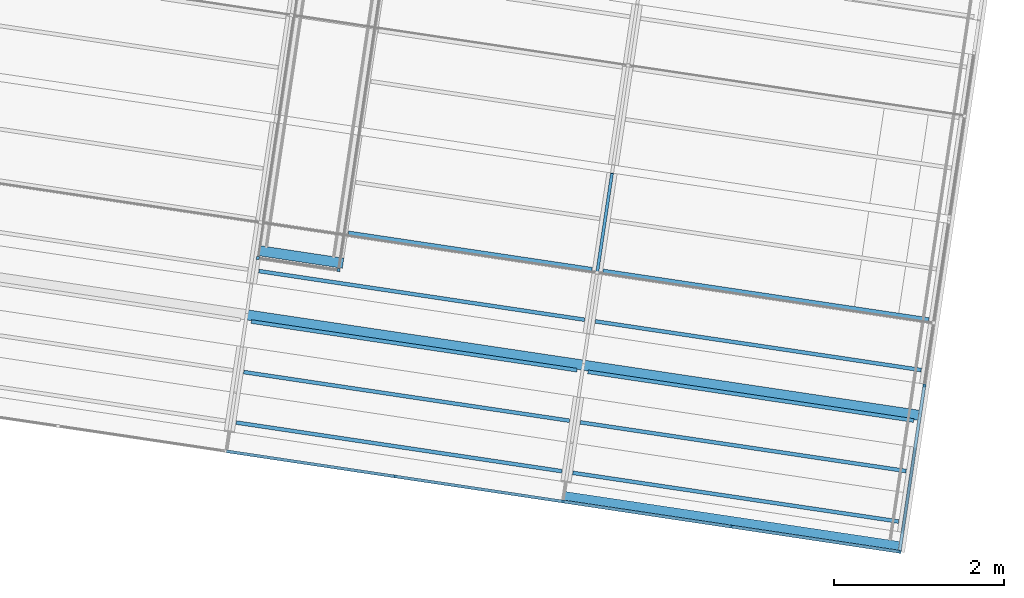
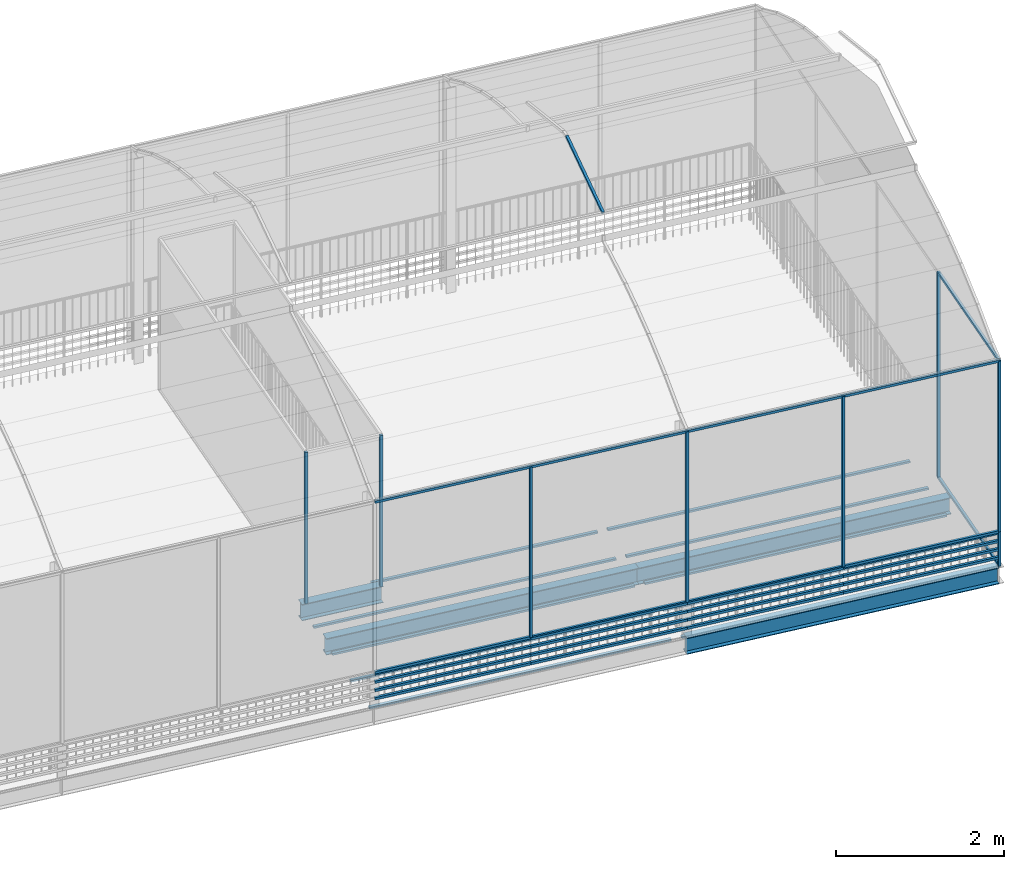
# One storey, part 12 of 34: 41 members, 14 beams, 1 element without a shape of its own.
"""IFC4 building model written with IfcOpenShell, lengths in metres."""

import ifcopenshell
import ifcopenshell.guid

model = None  # the IFC model being written
_history = None  # IfcOwnerHistory: only IFC2X3 demands one
_inside = {}  # id of a spatial element -> (the spatial element, [elements in it])
_under = {}  # id of a project, library or spatial element -> (it, [spatial elements below it])
_declared = {}  # id of a project -> (the project, [libraries it declares])
_typed = {}  # id of a type object -> (the type object, [elements of that type])
_made_of = {}  # id of a material, layer set ... -> (it, [elements and type objects made of it])


def new_model(schema):
    """Start an empty IFC model of exactly this schema.

    Asked for "IFC4X3", IfcOpenShell would pick the latest addendum, in which some entities
    have other attributes; the version numbers below select the first issue.
    IFC2X3 requires an IfcOwnerHistory on every rooted entity: one is made here for all.
    """
    global model, _history
    if schema == "IFC4X3":
        model = ifcopenshell.file(schema_version=(4, 3, 0, 0))
    else:
        model = ifcopenshell.file(schema=schema)
    _inside.clear()
    _under.clear()
    _declared.clear()
    _typed.clear()
    _made_of.clear()
    _history = None
    if model.schema == "IFC2X3":
        org = make("IfcOrganization", Name="unknown")
        user = make(
            "IfcPersonAndOrganization",
            ThePerson=make("IfcPerson", FamilyName="unknown"),
            TheOrganization=org,
        )
        app = make(
            "IfcApplication",
            ApplicationDeveloper=org,
            Version="unknown",
            ApplicationFullName="unknown",
            ApplicationIdentifier="unknown",
        )
        _history = make(
            "IfcOwnerHistory",
            OwningUser=user,
            OwningApplication=app,
            ChangeAction="ADDED",
            CreationDate=0,
        )
    return model


def make(cls, **values):
    """One entity of the class cls with the attributes given. An attribute that is None is left unset."""
    return model.create_entity(
        cls, **{name: value for name, value in values.items() if value is not None}
    )


def rooted(cls, **values):
    """An entity with a GlobalId (a new one), such as an element, a storey or a relation."""
    return make(cls, GlobalId=ifcopenshell.guid.new(), OwnerHistory=_history, **values)


def si_unit(unit_type, name, prefix=None):
    """IfcSIUnit, for example si_unit("LENGTHUNIT", "METRE", prefix="MILLI")."""
    return make("IfcSIUnit", UnitType=unit_type, Prefix=prefix, Name=name)


def assignment(units):
    """IfcUnitAssignment: the units of a project."""
    return None if units is None else make("IfcUnitAssignment", Units=units)


def point(xyz):
    """IfcCartesianPoint."""
    return None if xyz is None else make("IfcCartesianPoint", Coordinates=xyz)


def direction(xyz):
    """IfcDirection."""
    return None if xyz is None else make("IfcDirection", DirectionRatios=xyz)


def frame(location, z_axis=None, x_axis=None):
    """IfcAxis2Placement3D, a coordinate frame: its origin and axes. An axis left out is left unset."""
    return make(
        "IfcAxis2Placement3D",
        Location=point(location),
        Axis=direction(z_axis),
        RefDirection=direction(x_axis),
    )


def origin_with_axes():
    """The frame at (0, 0, 0) with the z axis (0, 0, 1) and the x axis (1, 0, 0) written out."""
    return frame((0.0, 0.0, 0.0), z_axis=(0.0, 0.0, 1.0), x_axis=(1.0, 0.0, 0.0))


def place(relative_to, where):
    """IfcLocalPlacement: puts the frame where relative to a parent placement (None: the world)."""
    return make(
        "IfcLocalPlacement", PlacementRelTo=relative_to, RelativePlacement=where
    )


def context(
    kind, dimensions, precision=None, world=None, true_north=None, identifier=None
):
    """IfcGeometricRepresentationContext, for example the 3D "Model" context."""
    return make(
        "IfcGeometricRepresentationContext",
        ContextIdentifier=identifier,
        ContextType=kind,
        CoordinateSpaceDimension=dimensions,
        Precision=precision,
        WorldCoordinateSystem=world,
        TrueNorth=true_north,
    )


def subcontext(parent, identifier, kind, view, scale=None):
    """IfcGeometricRepresentationSubContext, for example "Body" below "Model"."""
    return make(
        "IfcGeometricRepresentationSubContext",
        ContextIdentifier=identifier,
        ContextType=kind,
        ParentContext=parent,
        TargetScale=scale,
        TargetView=view,
    )


def project(units=None, contexts=None):
    """IfcProject with its units and contexts."""
    return rooted(
        "IfcProject",
        Name="project",
        RepresentationContexts=contexts,
        UnitsInContext=assignment(units),
    )


def spatial(cls, under=None, at=None, **own):
    """A site, building, storey or space (cls), placed at a placement, below another one or the project."""
    s = rooted(cls, ObjectPlacement=at, **own)
    if under is not None:
        _under.setdefault(under.id(), (under, []))[1].append(s)
    return s


def polyline(points):
    """IfcPolyline through the points."""
    return make("IfcPolyline", Points=[point(p) for p in points])


def profile(cls, at=None, kind="AREA", **sizes):
    """A parametric profile (cls). Its sizes go by their IFC names, for example OverallWidth=200.0."""
    return make(cls, ProfileType=kind, Position=at, **sizes)


def rectangle(**sizes):
    """IfcRectangleProfileDef."""
    return profile("IfcRectangleProfileDef", **sizes)


def i_section(**sizes):
    """IfcIShapeProfileDef."""
    return profile("IfcIShapeProfileDef", **sizes)


def outline(outer, holes=None, kind="AREA"):
    """IfcArbitraryClosedProfileDef: a profile drawn as a closed curve; with holes, ...WithVoids."""
    if holes is None:
        return make("IfcArbitraryClosedProfileDef", ProfileType=kind, OuterCurve=outer)
    return make(
        "IfcArbitraryProfileDefWithVoids",
        ProfileType=kind,
        OuterCurve=outer,
        InnerCurves=holes,
    )


def extrude(swept, where, along, depth):
    """IfcExtrudedAreaSolid: the profile swept, set in the frame where, extruded along a direction by depth."""
    return make(
        "IfcExtrudedAreaSolid",
        SweptArea=swept,
        Position=where,
        ExtrudedDirection=direction(along),
        Depth=depth,
    )


def shape(context_of_items, identifier, shape_type, items):
    """IfcShapeRepresentation: the items that make up one representation, for example the "Body"."""
    return make(
        "IfcShapeRepresentation",
        ContextOfItems=context_of_items,
        RepresentationIdentifier=identifier,
        RepresentationType=shape_type,
        Items=items,
    )


def material(Name=None, Category=None):
    """IfcMaterial."""
    return make("IfcMaterial", Name=Name, Category=Category)


def material_profile(
    of_material, cross_section, Name=None, Category=None, Priority=None
):
    """IfcMaterialProfile: a cross section and its material."""
    return make(
        "IfcMaterialProfile",
        Name=Name,
        Material=of_material,
        Profile=cross_section,
        Priority=Priority,
        Category=Category,
    )


def profile_set(profiles, Name=None, composite=None):
    """IfcMaterialProfileSet."""
    return make(
        "IfcMaterialProfileSet",
        Name=Name,
        MaterialProfiles=profiles,
        CompositeProfile=composite,
    )


def profile_usage(for_profile_set, cardinal=None, extent=None):
    """IfcMaterialProfileSetUsage: how a profile set lies along its element."""
    return make(
        "IfcMaterialProfileSetUsage",
        ForProfileSet=for_profile_set,
        CardinalPoint=cardinal,
        ReferenceExtent=extent,
    )


def made_of(thing, what):
    """Note that an element or type object is made of a material, layer set ...; save() writes the relation."""
    if what is not None:
        _made_of.setdefault(what.id(), (what, []))[1].append(thing)
    return thing


def type_object(cls, material=None, **own):
    """A type object (cls), such as IfcWallType, which elements share."""
    return made_of(rooted(cls, **own), material)


def element(
    cls,
    number,
    at=None,
    inside=None,
    cuts=None,
    type_object=None,
    material=None,
    context=None,
    identifier="Body",
    shape_type=None,
    held_by="IfcProductDefinitionShape",
    body=None,
    shapes=None,
    **own,
):
    """One element of the class cls, such as IfcWall. Its Tag is "e" and its number.

    at: its placement. inside: the storey or other place that contains it. cuts: it is an
    opening in that element (IfcRelVoidsElement). A single representation is given by context,
    identifier, shape_type and body (its items); several are given by shapes. held_by: the class
    of the entity that holds the representations. save() writes the other relations.
    """
    e = rooted(cls, Tag="e%d" % number, ObjectPlacement=at, **own)
    if body is not None:
        shapes = [shape(context, identifier, shape_type, body)]
    if shapes is not None:
        e.Representation = make(held_by, Representations=shapes)
    if inside is not None:
        _inside.setdefault(inside.id(), (inside, []))[1].append(e)
    if cuts is not None:
        rooted(
            "IfcRelVoidsElement", RelatingBuildingElement=cuts, RelatedOpeningElement=e
        )
    if type_object is not None:
        _typed.setdefault(type_object.id(), (type_object, []))[1].append(e)
    return made_of(e, material)


def aggregate(whole, parts):
    """IfcRelAggregates: a whole, such as a stair, and the parts it consists of."""
    return rooted("IfcRelAggregates", RelatingObject=whole, RelatedObjects=parts)


def save(model, path):
    """Write the relations noted so far, then the file.

    IfcRelAggregates (storeys below a building ...), IfcRelContainedInSpatialStructure (elements
    in a storey), IfcRelDefinesByType, IfcRelAssociatesMaterial and IfcRelDeclares: one each for
    every whole, place, type object, material and project.
    """
    for whole, parts in _under.values():
        aggregate(whole, parts)
    for where, things in _inside.values():
        rooted(
            "IfcRelContainedInSpatialStructure",
            RelatedElements=things,
            RelatingStructure=where,
        )
    for kind, things in _typed.values():
        rooted("IfcRelDefinesByType", RelatedObjects=things, RelatingType=kind)
    for what, things in _made_of.values():
        rooted("IfcRelAssociatesMaterial", RelatedObjects=things, RelatingMaterial=what)
    for by, libraries in _declared.values():
        rooted("IfcRelDeclares", RelatingContext=by, RelatedDefinitions=libraries)
    model.write(path)


model = new_model("IFC4")

# Units and contexts
model_context = context("Model", 3, precision=1e-05, world=origin_with_axes(), true_north=direction((0.0, 1.0)))
body_context = subcontext(model_context, "Body", "Model", "MODEL_VIEW")
ifc_project = project(units=[si_unit("VOLUMEUNIT", "CUBIC_METRE"), si_unit("LENGTHUNIT", "METRE"), si_unit("AREAUNIT", "SQUARE_METRE")], contexts=[model_context])

# Site, building, storey
site_placement = place(None, origin_with_axes())
site = spatial("IfcSite", under=ifc_project, at=site_placement, Name="Lares · Rua das Mercês · artigo 4771")
building_placement = place(site_placement, frame((12.0, 10.2, 13.9), z_axis=(0.0, 0.0, 1.0), x_axis=(0.989015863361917, -0.147809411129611, 0.0)))
building = spatial("IfcBuilding", under=site, at=building_placement, Name="Casa Sobreposta")
storey_placement = place(building_placement, frame((0.0, 0.0, 3.24), z_axis=(0.0, 0.0, 1.0), x_axis=(1.0, 0.0, 0.0)))
storey = spatial("IfcBuildingStorey", under=building, at=storey_placement, Name="01 · Jardim de inverno", Elevation=17.14)

# Beams
ifc_material_1 = material(Name="Aço pintado / Stahl lackiert", Category="steel")
ifc_material_profile_1 = material_profile(ifc_material_1, i_section(OverallWidth=0.12, OverallDepth=0.24, WebThickness=0.0062, FlangeThickness=0.0098))
ifc_profile_set_1 = profile_set([ifc_material_profile_1], Name="IPE240")
ifc_profile_usage_1 = profile_usage(ifc_profile_set_1)
beam_type = type_object("IfcBeamType", Name="IPE240 / steel", PredefinedType="NOTDEFINED", material=ifc_profile_set_1)
beam_1_placement = place(storey_placement, frame((24.0, 0.12, -0.152), z_axis=(1.0, 0.0, 0.0), x_axis=(0.0, -1.0, 0.0)))
element("IfcBeam", 1, at=beam_1_placement, inside=storey, type_object=beam_type, material=ifc_profile_usage_1, Name="Viga longitudinal 24 / 0.12", context=body_context, shape_type="SweptSolid", body=[
    extrude(i_section(OverallWidth=0.12, OverallDepth=0.24, WebThickness=0.0062, FlangeThickness=0.0098), origin_with_axes(), (0.0, 0.0, 1.0), 4.0),
])
ifc_profile_usage_2 = profile_usage(ifc_profile_set_1)
beam_2_placement = place(storey_placement, frame((28.0, 0.12, -0.152), z_axis=(1.0, 0.0, 0.0), x_axis=(0.0, -1.0, 0.0)))
element("IfcBeam", 2, at=beam_2_placement, inside=storey, type_object=beam_type, material=ifc_profile_usage_2, Name="Viga longitudinal 28 / 0.12", context=body_context, shape_type="SweptSolid", body=[
    extrude(i_section(OverallWidth=0.12, OverallDepth=0.24, WebThickness=0.0062, FlangeThickness=0.0098), origin_with_axes(), (0.0, 0.0, 1.0), 4.0),
])
ifc_profile_usage_3 = profile_usage(ifc_profile_set_1)
beam_3_placement = place(storey_placement, frame((28.0, -1.44, -0.152), z_axis=(1.0, 0.0, 0.0), x_axis=(0.0, -1.0, 0.0)))
element("IfcBeam", 3, at=beam_3_placement, inside=storey, type_object=beam_type, material=ifc_profile_usage_3, Name="Viga longitudinal 28 / -1.44", context=body_context, shape_type="SweptSolid", body=[
    extrude(i_section(OverallWidth=0.12, OverallDepth=0.24, WebThickness=0.0062, FlangeThickness=0.0098), origin_with_axes(), (0.0, 0.0, 1.0), 4.0),
])
ifc_profile_usage_4 = profile_usage(ifc_profile_set_1)
beam_4_placement = place(storey_placement, frame((23.99, 0.8875, -0.152), z_axis=(1.0, 0.0, 0.0), x_axis=(0.0, -1.0, 0.0)))
element("IfcBeam", 4, at=beam_4_placement, inside=storey, type_object=beam_type, material=ifc_profile_usage_4, Name="Cabeceira do vão 2", context=body_context, shape_type="SweptSolid", body=[
    extrude(i_section(OverallWidth=0.12, OverallDepth=0.24, WebThickness=0.0062, FlangeThickness=0.0098), origin_with_axes(), (0.0, 0.0, 1.0), 1.04),
])

# Members
ifc_material_profile_2 = material_profile(ifc_material_1, rectangle(XDim=0.035, YDim=0.035))
ifc_profile_set_2 = profile_set([ifc_material_profile_2], Name="R0.035")
ifc_profile_usage_5 = profile_usage(ifc_profile_set_2)
member_type = type_object("IfcMemberType", Name="R0.035 / steel", PredefinedType="NOTDEFINED", material=ifc_profile_set_2)
member_1_placement = place(storey_placement, frame((26.0, -1.5, 0.5), z_axis=(0.0, 0.0, 1.0), x_axis=(1.0, 0.0, 0.0)))
element("IfcMember", 5, at=member_1_placement, inside=storey, type_object=member_type, material=ifc_profile_usage_5, context=body_context, shape_type="SweptSolid", body=[
    extrude(rectangle(XDim=0.035, YDim=0.035), origin_with_axes(), (0.0, 0.0, 1.0), 2.48),
])
ifc_profile_usage_6 = profile_usage(ifc_profile_set_2)
member_2_placement = place(storey_placement, frame((24.0, -1.5, 0.5), z_axis=(1.0, 0.0, 0.0), x_axis=(0.0, -1.0, 0.0)))
element("IfcMember", 6, at=member_2_placement, inside=storey, type_object=member_type, material=ifc_profile_usage_6, Name="Estufa sul 13 · travessa", context=body_context, shape_type="SweptSolid", body=[
    extrude(rectangle(XDim=0.035, YDim=0.035), origin_with_axes(), (0.0, 0.0, 1.0), 2.0),
])
ifc_profile_usage_7 = profile_usage(ifc_profile_set_2)
member_3_placement = place(storey_placement, frame((24.0, -1.5, 2.98), z_axis=(1.0, 0.0, 0.0), x_axis=(0.0, -1.0, 0.0)))
element("IfcMember", 7, at=member_3_placement, inside=storey, type_object=member_type, material=ifc_profile_usage_7, Name="Estufa sul 13 · travessa", context=body_context, shape_type="SweptSolid", body=[
    extrude(rectangle(XDim=0.035, YDim=0.035), origin_with_axes(), (0.0, 0.0, 1.0), 2.0),
])
ifc_profile_usage_8 = profile_usage(ifc_profile_set_2)
member_4_placement = place(storey_placement, frame((24.0, -1.5, 0.12), z_axis=(1.0, 0.0, 0.0), x_axis=(0.0, -1.0, 0.0)))
element("IfcMember", 8, at=member_4_placement, inside=storey, type_object=member_type, material=ifc_profile_usage_8, Name="Entrada de ar sul 13", context=body_context, shape_type="SweptSolid", body=[
    extrude(rectangle(XDim=0.035, YDim=0.035), origin_with_axes(), (0.0, 0.0, 1.0), 2.0),
])
ifc_profile_usage_9 = profile_usage(ifc_profile_set_2)
member_5_placement = place(storey_placement, frame((24.0, -1.5, 0.24), z_axis=(1.0, 0.0, 0.0), x_axis=(0.0, -1.0, 0.0)))
element("IfcMember", 9, at=member_5_placement, inside=storey, type_object=member_type, material=ifc_profile_usage_9, Name="Entrada de ar sul 13", context=body_context, shape_type="SweptSolid", body=[
    extrude(rectangle(XDim=0.035, YDim=0.035), origin_with_axes(), (0.0, 0.0, 1.0), 2.0),
])
ifc_profile_usage_10 = profile_usage(ifc_profile_set_2)
member_6_placement = place(storey_placement, frame((24.0, -1.5, 0.36), z_axis=(1.0, 0.0, 0.0), x_axis=(0.0, -1.0, 0.0)))
element("IfcMember", 10, at=member_6_placement, inside=storey, type_object=member_type, material=ifc_profile_usage_10, Name="Entrada de ar sul 13", context=body_context, shape_type="SweptSolid", body=[
    extrude(rectangle(XDim=0.035, YDim=0.035), origin_with_axes(), (0.0, 0.0, 1.0), 2.0),
])
ifc_profile_usage_11 = profile_usage(ifc_profile_set_2)
member_7_placement = place(storey_placement, frame((24.0, -1.5, 0.48), z_axis=(1.0, 0.0, 0.0), x_axis=(0.0, -1.0, 0.0)))
element("IfcMember", 11, at=member_7_placement, inside=storey, type_object=member_type, material=ifc_profile_usage_11, Name="Entrada de ar sul 13", context=body_context, shape_type="SweptSolid", body=[
    extrude(rectangle(XDim=0.035, YDim=0.035), origin_with_axes(), (0.0, 0.0, 1.0), 2.0),
])
ifc_profile_usage_12 = profile_usage(ifc_profile_set_2)
member_8_placement = place(storey_placement, frame((26.0, -1.5, 0.5), z_axis=(0.0, 0.0, 1.0), x_axis=(1.0, 0.0, 0.0)))
element("IfcMember", 12, at=member_8_placement, inside=storey, type_object=member_type, material=ifc_profile_usage_12, context=body_context, shape_type="SweptSolid", body=[
    extrude(rectangle(XDim=0.035, YDim=0.035), origin_with_axes(), (0.0, 0.0, 1.0), 2.48),
])
ifc_profile_usage_13 = profile_usage(ifc_profile_set_2)
member_9_placement = place(storey_placement, frame((28.0, -1.5, 0.5), z_axis=(0.0, 0.0, 1.0), x_axis=(1.0, 0.0, 0.0)))
element("IfcMember", 13, at=member_9_placement, inside=storey, type_object=member_type, material=ifc_profile_usage_13, context=body_context, shape_type="SweptSolid", body=[
    extrude(rectangle(XDim=0.035, YDim=0.035), origin_with_axes(), (0.0, 0.0, 1.0), 2.48),
])
ifc_profile_usage_14 = profile_usage(ifc_profile_set_2)
member_10_placement = place(storey_placement, frame((26.0, -1.5, 0.5), z_axis=(1.0, 0.0, 0.0), x_axis=(0.0, -1.0, 0.0)))
element("IfcMember", 14, at=member_10_placement, inside=storey, type_object=member_type, material=ifc_profile_usage_14, Name="Estufa sul 14 · travessa", context=body_context, shape_type="SweptSolid", body=[
    extrude(rectangle(XDim=0.035, YDim=0.035), origin_with_axes(), (0.0, 0.0, 1.0), 2.0),
])
ifc_profile_usage_15 = profile_usage(ifc_profile_set_2)
member_11_placement = place(storey_placement, frame((26.0, -1.5, 2.98), z_axis=(1.0, 0.0, 0.0), x_axis=(0.0, -1.0, 0.0)))
element("IfcMember", 15, at=member_11_placement, inside=storey, type_object=member_type, material=ifc_profile_usage_15, Name="Estufa sul 14 · travessa", context=body_context, shape_type="SweptSolid", body=[
    extrude(rectangle(XDim=0.035, YDim=0.035), origin_with_axes(), (0.0, 0.0, 1.0), 2.0),
])
ifc_profile_usage_16 = profile_usage(ifc_profile_set_2)
member_12_placement = place(storey_placement, frame((26.0, -1.5, 0.12), z_axis=(1.0, 0.0, 0.0), x_axis=(0.0, -1.0, 0.0)))
element("IfcMember", 16, at=member_12_placement, inside=storey, type_object=member_type, material=ifc_profile_usage_16, Name="Entrada de ar sul 14", context=body_context, shape_type="SweptSolid", body=[
    extrude(rectangle(XDim=0.035, YDim=0.035), origin_with_axes(), (0.0, 0.0, 1.0), 2.0),
])
ifc_profile_usage_17 = profile_usage(ifc_profile_set_2)
member_13_placement = place(storey_placement, frame((26.0, -1.5, 0.24), z_axis=(1.0, 0.0, 0.0), x_axis=(0.0, -1.0, 0.0)))
element("IfcMember", 17, at=member_13_placement, inside=storey, type_object=member_type, material=ifc_profile_usage_17, Name="Entrada de ar sul 14", context=body_context, shape_type="SweptSolid", body=[
    extrude(rectangle(XDim=0.035, YDim=0.035), origin_with_axes(), (0.0, 0.0, 1.0), 2.0),
])
ifc_profile_usage_18 = profile_usage(ifc_profile_set_2)
member_14_placement = place(storey_placement, frame((26.0, -1.5, 0.36), z_axis=(1.0, 0.0, 0.0), x_axis=(0.0, -1.0, 0.0)))
element("IfcMember", 18, at=member_14_placement, inside=storey, type_object=member_type, material=ifc_profile_usage_18, Name="Entrada de ar sul 14", context=body_context, shape_type="SweptSolid", body=[
    extrude(rectangle(XDim=0.035, YDim=0.035), origin_with_axes(), (0.0, 0.0, 1.0), 2.0),
])
ifc_profile_usage_19 = profile_usage(ifc_profile_set_2)
member_15_placement = place(storey_placement, frame((26.0, -1.5, 0.48), z_axis=(1.0, 0.0, 0.0), x_axis=(0.0, -1.0, 0.0)))
element("IfcMember", 19, at=member_15_placement, inside=storey, type_object=member_type, material=ifc_profile_usage_19, Name="Entrada de ar sul 14", context=body_context, shape_type="SweptSolid", body=[
    extrude(rectangle(XDim=0.035, YDim=0.035), origin_with_axes(), (0.0, 0.0, 1.0), 2.0),
])
ifc_profile_usage_20 = profile_usage(ifc_profile_set_2)
member_16_placement = place(storey_placement, frame((28.0, -1.5, 0.5), z_axis=(0.0, 0.0, 1.0), x_axis=(1.0, 0.0, 0.0)))
element("IfcMember", 20, at=member_16_placement, inside=storey, type_object=member_type, material=ifc_profile_usage_20, context=body_context, shape_type="SweptSolid", body=[
    extrude(rectangle(XDim=0.035, YDim=0.035), origin_with_axes(), (0.0, 0.0, 1.0), 2.48),
])
ifc_profile_usage_21 = profile_usage(ifc_profile_set_2)
member_17_placement = place(storey_placement, frame((30.0, -1.5, 0.5), z_axis=(0.0, 0.0, 1.0), x_axis=(1.0, 0.0, 0.0)))
element("IfcMember", 21, at=member_17_placement, inside=storey, type_object=member_type, material=ifc_profile_usage_21, context=body_context, shape_type="SweptSolid", body=[
    extrude(rectangle(XDim=0.035, YDim=0.035), origin_with_axes(), (0.0, 0.0, 1.0), 2.48),
])
ifc_profile_usage_22 = profile_usage(ifc_profile_set_2)
member_18_placement = place(storey_placement, frame((28.0, -1.5, 0.5), z_axis=(1.0, 0.0, 0.0), x_axis=(0.0, -1.0, 0.0)))
element("IfcMember", 22, at=member_18_placement, inside=storey, type_object=member_type, material=ifc_profile_usage_22, Name="Estufa sul 15 · travessa", context=body_context, shape_type="SweptSolid", body=[
    extrude(rectangle(XDim=0.035, YDim=0.035), origin_with_axes(), (0.0, 0.0, 1.0), 2.0),
])
ifc_profile_usage_23 = profile_usage(ifc_profile_set_2)
member_19_placement = place(storey_placement, frame((28.0, -1.5, 2.98), z_axis=(1.0, 0.0, 0.0), x_axis=(0.0, -1.0, 0.0)))
element("IfcMember", 23, at=member_19_placement, inside=storey, type_object=member_type, material=ifc_profile_usage_23, Name="Estufa sul 15 · travessa", context=body_context, shape_type="SweptSolid", body=[
    extrude(rectangle(XDim=0.035, YDim=0.035), origin_with_axes(), (0.0, 0.0, 1.0), 2.0),
])
ifc_profile_usage_24 = profile_usage(ifc_profile_set_2)
member_20_placement = place(storey_placement, frame((28.0, -1.5, 0.12), z_axis=(1.0, 0.0, 0.0), x_axis=(0.0, -1.0, 0.0)))
element("IfcMember", 24, at=member_20_placement, inside=storey, type_object=member_type, material=ifc_profile_usage_24, Name="Entrada de ar sul 15", context=body_context, shape_type="SweptSolid", body=[
    extrude(rectangle(XDim=0.035, YDim=0.035), origin_with_axes(), (0.0, 0.0, 1.0), 2.0),
])
ifc_profile_usage_25 = profile_usage(ifc_profile_set_2)
member_21_placement = place(storey_placement, frame((28.0, -1.5, 0.24), z_axis=(1.0, 0.0, 0.0), x_axis=(0.0, -1.0, 0.0)))
element("IfcMember", 25, at=member_21_placement, inside=storey, type_object=member_type, material=ifc_profile_usage_25, Name="Entrada de ar sul 15", context=body_context, shape_type="SweptSolid", body=[
    extrude(rectangle(XDim=0.035, YDim=0.035), origin_with_axes(), (0.0, 0.0, 1.0), 2.0),
])
ifc_profile_usage_26 = profile_usage(ifc_profile_set_2)
member_22_placement = place(storey_placement, frame((28.0, -1.5, 0.36), z_axis=(1.0, 0.0, 0.0), x_axis=(0.0, -1.0, 0.0)))
element("IfcMember", 26, at=member_22_placement, inside=storey, type_object=member_type, material=ifc_profile_usage_26, Name="Entrada de ar sul 15", context=body_context, shape_type="SweptSolid", body=[
    extrude(rectangle(XDim=0.035, YDim=0.035), origin_with_axes(), (0.0, 0.0, 1.0), 2.0),
])
ifc_profile_usage_27 = profile_usage(ifc_profile_set_2)
member_23_placement = place(storey_placement, frame((28.0, -1.5, 0.48), z_axis=(1.0, 0.0, 0.0), x_axis=(0.0, -1.0, 0.0)))
element("IfcMember", 27, at=member_23_placement, inside=storey, type_object=member_type, material=ifc_profile_usage_27, Name="Entrada de ar sul 15", context=body_context, shape_type="SweptSolid", body=[
    extrude(rectangle(XDim=0.035, YDim=0.035), origin_with_axes(), (0.0, 0.0, 1.0), 2.0),
])
ifc_profile_usage_28 = profile_usage(ifc_profile_set_2)
member_24_placement = place(storey_placement, frame((30.0, -1.5, 0.5), z_axis=(0.0, 0.0, 1.0), x_axis=(1.0, 0.0, 0.0)))
element("IfcMember", 28, at=member_24_placement, inside=storey, type_object=member_type, material=ifc_profile_usage_28, context=body_context, shape_type="SweptSolid", body=[
    extrude(rectangle(XDim=0.035, YDim=0.035), origin_with_axes(), (0.0, 0.0, 1.0), 2.48),
])
ifc_profile_usage_29 = profile_usage(ifc_profile_set_2)
member_25_placement = place(storey_placement, frame((32.0, -1.5, 0.5), z_axis=(0.0, 0.0, 1.0), x_axis=(1.0, 0.0, 0.0)))
element("IfcMember", 29, at=member_25_placement, inside=storey, type_object=member_type, material=ifc_profile_usage_29, Name="Estufa sul 16 · montante", context=body_context, shape_type="SweptSolid", body=[
    extrude(rectangle(XDim=0.035, YDim=0.035), origin_with_axes(), (0.0, 0.0, 1.0), 2.48),
])
ifc_profile_usage_30 = profile_usage(ifc_profile_set_2)
member_26_placement = place(storey_placement, frame((30.0, -1.5, 0.5), z_axis=(1.0, 0.0, 0.0), x_axis=(0.0, -1.0, 0.0)))
element("IfcMember", 30, at=member_26_placement, inside=storey, type_object=member_type, material=ifc_profile_usage_30, Name="Estufa sul 16 · travessa", context=body_context, shape_type="SweptSolid", body=[
    extrude(rectangle(XDim=0.035, YDim=0.035), origin_with_axes(), (0.0, 0.0, 1.0), 2.0),
])
ifc_profile_usage_31 = profile_usage(ifc_profile_set_2)
member_27_placement = place(storey_placement, frame((30.0, -1.5, 2.98), z_axis=(1.0, 0.0, 0.0), x_axis=(0.0, -1.0, 0.0)))
element("IfcMember", 31, at=member_27_placement, inside=storey, type_object=member_type, material=ifc_profile_usage_31, Name="Estufa sul 16 · travessa", context=body_context, shape_type="SweptSolid", body=[
    extrude(rectangle(XDim=0.035, YDim=0.035), origin_with_axes(), (0.0, 0.0, 1.0), 2.0),
])
ifc_profile_usage_32 = profile_usage(ifc_profile_set_2)
member_28_placement = place(storey_placement, frame((30.0, -1.5, 0.12), z_axis=(1.0, 0.0, 0.0), x_axis=(0.0, -1.0, 0.0)))
element("IfcMember", 32, at=member_28_placement, inside=storey, type_object=member_type, material=ifc_profile_usage_32, Name="Entrada de ar sul 16", context=body_context, shape_type="SweptSolid", body=[
    extrude(rectangle(XDim=0.035, YDim=0.035), origin_with_axes(), (0.0, 0.0, 1.0), 2.0),
])
ifc_profile_usage_33 = profile_usage(ifc_profile_set_2)
member_29_placement = place(storey_placement, frame((30.0, -1.5, 0.24), z_axis=(1.0, 0.0, 0.0), x_axis=(0.0, -1.0, 0.0)))
element("IfcMember", 33, at=member_29_placement, inside=storey, type_object=member_type, material=ifc_profile_usage_33, Name="Entrada de ar sul 16", context=body_context, shape_type="SweptSolid", body=[
    extrude(rectangle(XDim=0.035, YDim=0.035), origin_with_axes(), (0.0, 0.0, 1.0), 2.0),
])
ifc_profile_usage_34 = profile_usage(ifc_profile_set_2)
member_30_placement = place(storey_placement, frame((30.0, -1.5, 0.36), z_axis=(1.0, 0.0, 0.0), x_axis=(0.0, -1.0, 0.0)))
element("IfcMember", 34, at=member_30_placement, inside=storey, type_object=member_type, material=ifc_profile_usage_34, Name="Entrada de ar sul 16", context=body_context, shape_type="SweptSolid", body=[
    extrude(rectangle(XDim=0.035, YDim=0.035), origin_with_axes(), (0.0, 0.0, 1.0), 2.0),
])
ifc_profile_usage_35 = profile_usage(ifc_profile_set_2)
member_31_placement = place(storey_placement, frame((30.0, -1.5, 0.48), z_axis=(1.0, 0.0, 0.0), x_axis=(0.0, -1.0, 0.0)))
element("IfcMember", 35, at=member_31_placement, inside=storey, type_object=member_type, material=ifc_profile_usage_35, Name="Entrada de ar sul 16", context=body_context, shape_type="SweptSolid", body=[
    extrude(rectangle(XDim=0.035, YDim=0.035), origin_with_axes(), (0.0, 0.0, 1.0), 2.0),
])
ifc_profile_usage_36 = profile_usage(ifc_profile_set_2)
member_32_placement = place(storey_placement, frame((32.0, -1.5, 0.0), z_axis=(0.0, 0.0, 1.0), x_axis=(1.0, 0.0, 0.0)))
element("IfcMember", 36, at=member_32_placement, inside=storey, type_object=member_type, material=ifc_profile_usage_36, Name="Estufa nascente 1 · montante", context=body_context, shape_type="SweptSolid", body=[
    extrude(rectangle(XDim=0.035, YDim=0.035), origin_with_axes(), (0.0, 0.0, 1.0), 2.98),
])
ifc_profile_usage_37 = profile_usage(ifc_profile_set_2)
member_33_placement = place(storey_placement, frame((32.0, 0.475, 0.0), z_axis=(0.0, 0.0, 1.0), x_axis=(1.0, 0.0, 0.0)))
element("IfcMember", 37, at=member_33_placement, inside=storey, type_object=member_type, material=ifc_profile_usage_37, context=body_context, shape_type="SweptSolid", body=[
    extrude(rectangle(XDim=0.035, YDim=0.035), origin_with_axes(), (0.0, 0.0, 1.0), 2.98),
])
ifc_profile_usage_38 = profile_usage(ifc_profile_set_2)
member_34_placement = place(storey_placement, frame((32.0, -1.5, 0.0), z_axis=(0.0, 1.0, 0.0), x_axis=(1.0, 0.0, 0.0)))
element("IfcMember", 38, at=member_34_placement, inside=storey, type_object=member_type, material=ifc_profile_usage_38, Name="Estufa nascente 1 · travessa", context=body_context, shape_type="SweptSolid", body=[
    extrude(rectangle(XDim=0.035, YDim=0.035), origin_with_axes(), (0.0, 0.0, 1.0), 1.975),
])
ifc_profile_usage_39 = profile_usage(ifc_profile_set_2)
member_35_placement = place(storey_placement, frame((32.0, -1.5, 2.98), z_axis=(0.0, 1.0, 0.0), x_axis=(1.0, 0.0, 0.0)))
element("IfcMember", 39, at=member_35_placement, inside=storey, type_object=member_type, material=ifc_profile_usage_39, Name="Estufa nascente 1 · travessa", context=body_context, shape_type="SweptSolid", body=[
    extrude(rectangle(XDim=0.035, YDim=0.035), origin_with_axes(), (0.0, 0.0, 1.0), 1.975),
])
ifc_profile_usage_40 = profile_usage(ifc_profile_set_2)
member_36_placement = place(storey_placement, frame((32.0, 0.475, 0.0), z_axis=(0.0, 0.0, 1.0), x_axis=(1.0, 0.0, 0.0)))
element("IfcMember", 40, at=member_36_placement, inside=storey, type_object=member_type, material=ifc_profile_usage_40, context=body_context, shape_type="SweptSolid", body=[
    extrude(rectangle(XDim=0.035, YDim=0.035), origin_with_axes(), (0.0, 0.0, 1.0), 2.98),
])

# Roof, member
ifc_material_2 = material(Name="Vidro / Normalglas", Category="glass")
roof_placement = place(storey_placement, frame((0.0, 0.0, -3.24), z_axis=(0.0, 0.0, 1.0), x_axis=(1.0, 0.0, 0.0)))
roof = element("IfcRoof", 41, at=roof_placement, inside=storey, material=ifc_material_2, Name="Cobertura translúcida da estufa", PredefinedType="BARREL_ROOF")
ifc_profile_usage_41 = profile_usage(ifc_profile_set_2)
member_37_placement = place(roof_placement, frame((28.0, 1.22042020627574, 7.62067689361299), z_axis=(0.0, 0.960073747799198, 0.279747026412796), x_axis=(1.0, 0.0, 0.0)))
member_37 = element("IfcMember", 42, at=member_37_placement, type_object=member_type, material=ifc_profile_usage_41, Name="Arco estufa 28/7", context=body_context, shape_type="SweptSolid", body=[
    extrude(rectangle(XDim=0.035, YDim=0.035), origin_with_axes(), (0.0, 0.0, 1.0), 1.23148937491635),
])
aggregate(roof, [member_37])

# Members
ifc_profile_usage_42 = profile_usage(ifc_profile_set_2)
member_38_placement = place(storey_placement, frame((24.03, 0.8, 0.0), z_axis=(0.0, 0.0, 1.0), x_axis=(1.0, 0.0, 0.0)))
element("IfcMember", 43, at=member_38_placement, inside=storey, type_object=member_type, material=ifc_profile_usage_42, context=body_context, shape_type="SweptSolid", body=[
    extrude(rectangle(XDim=0.035, YDim=0.035), origin_with_axes(), (0.0, 0.0, 1.0), 2.2),
])
ifc_profile_usage_43 = profile_usage(ifc_profile_set_2)
member_39_placement = place(storey_placement, frame((24.99, 0.8, 0.0), z_axis=(0.0, 0.0, 1.0), x_axis=(1.0, 0.0, 0.0)))
element("IfcMember", 44, at=member_39_placement, inside=storey, type_object=member_type, material=ifc_profile_usage_43, context=body_context, shape_type="SweptSolid", body=[
    extrude(rectangle(XDim=0.035, YDim=0.035), origin_with_axes(), (0.0, 0.0, 1.0), 2.2),
])
ifc_profile_usage_44 = profile_usage(ifc_profile_set_2)
member_40_placement = place(storey_placement, frame((24.03, 0.8, 0.0), z_axis=(0.0, 0.0, 1.0), x_axis=(1.0, 0.0, 0.0)))
element("IfcMember", 45, at=member_40_placement, inside=storey, type_object=member_type, material=ifc_profile_usage_44, context=body_context, shape_type="SweptSolid", body=[
    extrude(rectangle(XDim=0.035, YDim=0.035), origin_with_axes(), (0.0, 0.0, 1.0), 2.2),
])
ifc_profile_usage_45 = profile_usage(ifc_profile_set_2)
member_41_placement = place(storey_placement, frame((24.99, 0.8, 0.0), z_axis=(0.0, 0.0, 1.0), x_axis=(1.0, 0.0, 0.0)))
element("IfcMember", 46, at=member_41_placement, inside=storey, type_object=member_type, material=ifc_profile_usage_45, context=body_context, shape_type="SweptSolid", body=[
    extrude(rectangle(XDim=0.035, YDim=0.035), origin_with_axes(), (0.0, 0.0, 1.0), 2.2),
])

# Beams
ifc_material_3 = material(Name="Madeira / Bauholz", Category="wood")
ifc_material_profile_3 = material_profile(ifc_material_3, outline(polyline([(0.022225, -0.12), (0.022225, -0.092), (-0.022225, -0.092), (-0.022225, -0.12), (0.022225, -0.12)])))
ifc_material_4 = material(Name="OSB", Category="wood")
ifc_material_profile_4 = material_profile(ifc_material_4, outline(polyline([(0.0047625, -0.092), (0.0047625, 0.092), (-0.0047625, 0.092), (-0.0047625, -0.092), (0.0047625, -0.092)])))
ifc_material_profile_5 = material_profile(ifc_material_3, outline(polyline([(0.022225, 0.092), (0.022225, 0.12), (-0.022225, 0.12), (-0.022225, 0.092), (0.022225, 0.092)])))
ifc_profile_set_3 = profile_set([ifc_material_profile_3, ifc_material_profile_4, ifc_material_profile_5], Name="TJI240 · madeira / OSB")
ifc_profile_usage_46 = profile_usage(ifc_profile_set_3)
beam_5_placement = place(storey_placement, frame((24.065, -1.15, -0.152), z_axis=(1.0, 0.0, 0.0), x_axis=(0.0, 1.0, 0.0)))
element("IfcBeam", 47, at=beam_5_placement, inside=storey, material=ifc_profile_usage_46, Name="TJI240 · 24.065 / -1.15", context=body_context, shape_type="SweptSolid", body=[
    extrude(outline(polyline([(0.022225, -0.12), (0.022225, -0.092), (-0.022225, -0.092), (-0.022225, -0.12), (0.022225, -0.12)])), origin_with_axes(), (0.0, 0.0, 1.0), 3.87),
    extrude(outline(polyline([(0.022225, -0.12), (0.022225, -0.092), (-0.022225, -0.092), (-0.022225, -0.12), (0.022225, -0.12)])), origin_with_axes(), (0.0, 0.0, 1.0), 3.87),
    extrude(outline(polyline([(0.022225, -0.12), (0.022225, -0.092), (-0.022225, -0.092), (-0.022225, -0.12), (0.022225, -0.12)])), origin_with_axes(), (0.0, 0.0, 1.0), 3.87),
])
ifc_material_profile_6 = material_profile(ifc_material_3, outline(polyline([(0.022225, -0.12), (0.022225, -0.092), (-0.022225, -0.092), (-0.022225, -0.12), (0.022225, -0.12)])))
ifc_material_profile_7 = material_profile(ifc_material_4, outline(polyline([(0.0047625, -0.092), (0.0047625, 0.092), (-0.0047625, 0.092), (-0.0047625, -0.092), (0.0047625, -0.092)])))
ifc_material_profile_8 = material_profile(ifc_material_3, outline(polyline([(0.022225, 0.092), (0.022225, 0.12), (-0.022225, 0.12), (-0.022225, 0.092), (0.022225, 0.092)])))
ifc_profile_set_4 = profile_set([ifc_material_profile_6, ifc_material_profile_7, ifc_material_profile_8], Name="TJI240 · madeira / OSB")
ifc_profile_usage_47 = profile_usage(ifc_profile_set_4)
beam_6_placement = place(storey_placement, frame((28.065, -1.15, -0.152), z_axis=(1.0, 0.0, 0.0), x_axis=(0.0, 1.0, 0.0)))
element("IfcBeam", 48, at=beam_6_placement, inside=storey, material=ifc_profile_usage_47, Name="TJI240 · 28.065 / -1.15", context=body_context, shape_type="SweptSolid", body=[
    extrude(outline(polyline([(0.022225, -0.12), (0.022225, -0.092), (-0.022225, -0.092), (-0.022225, -0.12), (0.022225, -0.12)])), origin_with_axes(), (0.0, 0.0, 1.0), 3.87),
    extrude(outline(polyline([(0.022225, -0.12), (0.022225, -0.092), (-0.022225, -0.092), (-0.022225, -0.12), (0.022225, -0.12)])), origin_with_axes(), (0.0, 0.0, 1.0), 3.87),
    extrude(outline(polyline([(0.022225, -0.12), (0.022225, -0.092), (-0.022225, -0.092), (-0.022225, -0.12), (0.022225, -0.12)])), origin_with_axes(), (0.0, 0.0, 1.0), 3.87),
])
ifc_material_profile_9 = material_profile(ifc_material_3, outline(polyline([(0.022225, -0.12), (0.022225, -0.092), (-0.022225, -0.092), (-0.022225, -0.12), (0.022225, -0.12)])))
ifc_material_profile_10 = material_profile(ifc_material_4, outline(polyline([(0.0047625, -0.092), (0.0047625, 0.092), (-0.0047625, 0.092), (-0.0047625, -0.092), (0.0047625, -0.092)])))
ifc_material_profile_11 = material_profile(ifc_material_3, outline(polyline([(0.022225, 0.092), (0.022225, 0.12), (-0.022225, 0.12), (-0.022225, 0.092), (0.022225, 0.092)])))
ifc_profile_set_5 = profile_set([ifc_material_profile_9, ifc_material_profile_10, ifc_material_profile_11], Name="TJI240 · madeira / OSB")
ifc_profile_usage_48 = profile_usage(ifc_profile_set_5)
beam_7_placement = place(storey_placement, frame((24.065, -0.55, -0.152), z_axis=(1.0, 0.0, 0.0), x_axis=(0.0, 1.0, 0.0)))
element("IfcBeam", 49, at=beam_7_placement, inside=storey, material=ifc_profile_usage_48, Name="TJI240 · 24.065 / -0.55", context=body_context, shape_type="SweptSolid", body=[
    extrude(outline(polyline([(0.022225, -0.12), (0.022225, -0.092), (-0.022225, -0.092), (-0.022225, -0.12), (0.022225, -0.12)])), origin_with_axes(), (0.0, 0.0, 1.0), 3.87),
    extrude(outline(polyline([(0.022225, -0.12), (0.022225, -0.092), (-0.022225, -0.092), (-0.022225, -0.12), (0.022225, -0.12)])), origin_with_axes(), (0.0, 0.0, 1.0), 3.87),
    extrude(outline(polyline([(0.022225, -0.12), (0.022225, -0.092), (-0.022225, -0.092), (-0.022225, -0.12), (0.022225, -0.12)])), origin_with_axes(), (0.0, 0.0, 1.0), 3.87),
])
ifc_material_profile_12 = material_profile(ifc_material_3, outline(polyline([(0.022225, -0.12), (0.022225, -0.092), (-0.022225, -0.092), (-0.022225, -0.12), (0.022225, -0.12)])))
ifc_material_profile_13 = material_profile(ifc_material_4, outline(polyline([(0.0047625, -0.092), (0.0047625, 0.092), (-0.0047625, 0.092), (-0.0047625, -0.092), (0.0047625, -0.092)])))
ifc_material_profile_14 = material_profile(ifc_material_3, outline(polyline([(0.022225, 0.092), (0.022225, 0.12), (-0.022225, 0.12), (-0.022225, 0.092), (0.022225, 0.092)])))
ifc_profile_set_6 = profile_set([ifc_material_profile_12, ifc_material_profile_13, ifc_material_profile_14], Name="TJI240 · madeira / OSB")
ifc_profile_usage_49 = profile_usage(ifc_profile_set_6)
beam_8_placement = place(storey_placement, frame((28.065, -0.55, -0.152), z_axis=(1.0, 0.0, 0.0), x_axis=(0.0, 1.0, 0.0)))
element("IfcBeam", 50, at=beam_8_placement, inside=storey, material=ifc_profile_usage_49, Name="TJI240 · 28.065 / -0.55", context=body_context, shape_type="SweptSolid", body=[
    extrude(outline(polyline([(0.022225, -0.12), (0.022225, -0.092), (-0.022225, -0.092), (-0.022225, -0.12), (0.022225, -0.12)])), origin_with_axes(), (0.0, 0.0, 1.0), 3.87),
    extrude(outline(polyline([(0.022225, -0.12), (0.022225, -0.092), (-0.022225, -0.092), (-0.022225, -0.12), (0.022225, -0.12)])), origin_with_axes(), (0.0, 0.0, 1.0), 3.87),
    extrude(outline(polyline([(0.022225, -0.12), (0.022225, -0.092), (-0.022225, -0.092), (-0.022225, -0.12), (0.022225, -0.12)])), origin_with_axes(), (0.0, 0.0, 1.0), 3.87),
])
ifc_material_profile_15 = material_profile(ifc_material_3, outline(polyline([(0.022225, -0.12), (0.022225, -0.092), (-0.022225, -0.092), (-0.022225, -0.12), (0.022225, -0.12)])))
ifc_material_profile_16 = material_profile(ifc_material_4, outline(polyline([(0.0047625, -0.092), (0.0047625, 0.092), (-0.0047625, 0.092), (-0.0047625, -0.092), (0.0047625, -0.092)])))
ifc_material_profile_17 = material_profile(ifc_material_3, outline(polyline([(0.022225, 0.092), (0.022225, 0.12), (-0.022225, 0.12), (-0.022225, 0.092), (0.022225, 0.092)])))
ifc_profile_set_7 = profile_set([ifc_material_profile_15, ifc_material_profile_16, ifc_material_profile_17], Name="TJI240 · madeira / OSB")
ifc_profile_usage_50 = profile_usage(ifc_profile_set_7)
beam_9_placement = place(storey_placement, frame((24.065, 0.05, -0.152), z_axis=(1.0, 0.0, 0.0), x_axis=(0.0, 1.0, 0.0)))
element("IfcBeam", 51, at=beam_9_placement, inside=storey, material=ifc_profile_usage_50, Name="TJI240 · 24.065 / 0.05", context=body_context, shape_type="SweptSolid", body=[
    extrude(outline(polyline([(0.022225, -0.12), (0.022225, -0.092), (-0.022225, -0.092), (-0.022225, -0.12), (0.022225, -0.12)])), origin_with_axes(), (0.0, 0.0, 1.0), 3.87),
    extrude(outline(polyline([(0.022225, -0.12), (0.022225, -0.092), (-0.022225, -0.092), (-0.022225, -0.12), (0.022225, -0.12)])), origin_with_axes(), (0.0, 0.0, 1.0), 3.87),
    extrude(outline(polyline([(0.022225, -0.12), (0.022225, -0.092), (-0.022225, -0.092), (-0.022225, -0.12), (0.022225, -0.12)])), origin_with_axes(), (0.0, 0.0, 1.0), 3.87),
])
ifc_material_profile_18 = material_profile(ifc_material_3, outline(polyline([(0.022225, -0.12), (0.022225, -0.092), (-0.022225, -0.092), (-0.022225, -0.12), (0.022225, -0.12)])))
ifc_material_profile_19 = material_profile(ifc_material_4, outline(polyline([(0.0047625, -0.092), (0.0047625, 0.092), (-0.0047625, 0.092), (-0.0047625, -0.092), (0.0047625, -0.092)])))
ifc_material_profile_20 = material_profile(ifc_material_3, outline(polyline([(0.022225, 0.092), (0.022225, 0.12), (-0.022225, 0.12), (-0.022225, 0.092), (0.022225, 0.092)])))
ifc_profile_set_8 = profile_set([ifc_material_profile_18, ifc_material_profile_19, ifc_material_profile_20], Name="TJI240 · madeira / OSB")
ifc_profile_usage_51 = profile_usage(ifc_profile_set_8)
beam_10_placement = place(storey_placement, frame((28.065, 0.05, -0.152), z_axis=(1.0, 0.0, 0.0), x_axis=(0.0, 1.0, 0.0)))
element("IfcBeam", 52, at=beam_10_placement, inside=storey, material=ifc_profile_usage_51, Name="TJI240 · 28.065 / 0.05", context=body_context, shape_type="SweptSolid", body=[
    extrude(outline(polyline([(0.022225, -0.12), (0.022225, -0.092), (-0.022225, -0.092), (-0.022225, -0.12), (0.022225, -0.12)])), origin_with_axes(), (0.0, 0.0, 1.0), 3.87),
    extrude(outline(polyline([(0.022225, -0.12), (0.022225, -0.092), (-0.022225, -0.092), (-0.022225, -0.12), (0.022225, -0.12)])), origin_with_axes(), (0.0, 0.0, 1.0), 3.87),
    extrude(outline(polyline([(0.022225, -0.12), (0.022225, -0.092), (-0.022225, -0.092), (-0.022225, -0.12), (0.022225, -0.12)])), origin_with_axes(), (0.0, 0.0, 1.0), 3.87),
])
ifc_material_profile_21 = material_profile(ifc_material_3, outline(polyline([(0.022225, -0.12), (0.022225, -0.092), (-0.022225, -0.092), (-0.022225, -0.12), (0.022225, -0.12)])))
ifc_material_profile_22 = material_profile(ifc_material_4, outline(polyline([(0.0047625, -0.092), (0.0047625, 0.092), (-0.0047625, 0.092), (-0.0047625, -0.092), (0.0047625, -0.092)])))
ifc_material_profile_23 = material_profile(ifc_material_3, outline(polyline([(0.022225, 0.092), (0.022225, 0.12), (-0.022225, 0.12), (-0.022225, 0.092), (0.022225, 0.092)])))
ifc_profile_set_9 = profile_set([ifc_material_profile_21, ifc_material_profile_22, ifc_material_profile_23], Name="TJI240 · madeira / OSB")
ifc_profile_usage_52 = profile_usage(ifc_profile_set_9)
beam_11_placement = place(storey_placement, frame((24.065, 0.65, -0.152), z_axis=(1.0, 0.0, 0.0), x_axis=(0.0, 1.0, 0.0)))
element("IfcBeam", 53, at=beam_11_placement, inside=storey, material=ifc_profile_usage_52, Name="TJI240 · 24.065 / 0.65", context=body_context, shape_type="SweptSolid", body=[
    extrude(outline(polyline([(0.022225, -0.12), (0.022225, -0.092), (-0.022225, -0.092), (-0.022225, -0.12), (0.022225, -0.12)])), origin_with_axes(), (0.0, 0.0, 1.0), 3.87),
    extrude(outline(polyline([(0.022225, -0.12), (0.022225, -0.092), (-0.022225, -0.092), (-0.022225, -0.12), (0.022225, -0.12)])), origin_with_axes(), (0.0, 0.0, 1.0), 3.87),
    extrude(outline(polyline([(0.022225, -0.12), (0.022225, -0.092), (-0.022225, -0.092), (-0.022225, -0.12), (0.022225, -0.12)])), origin_with_axes(), (0.0, 0.0, 1.0), 3.87),
])
ifc_material_profile_24 = material_profile(ifc_material_3, outline(polyline([(0.022225, -0.12), (0.022225, -0.092), (-0.022225, -0.092), (-0.022225, -0.12), (0.022225, -0.12)])))
ifc_material_profile_25 = material_profile(ifc_material_4, outline(polyline([(0.0047625, -0.092), (0.0047625, 0.092), (-0.0047625, 0.092), (-0.0047625, -0.092), (0.0047625, -0.092)])))
ifc_material_profile_26 = material_profile(ifc_material_3, outline(polyline([(0.022225, 0.092), (0.022225, 0.12), (-0.022225, 0.12), (-0.022225, 0.092), (0.022225, 0.092)])))
ifc_profile_set_10 = profile_set([ifc_material_profile_24, ifc_material_profile_25, ifc_material_profile_26], Name="TJI240 · madeira / OSB")
ifc_profile_usage_53 = profile_usage(ifc_profile_set_10)
beam_12_placement = place(storey_placement, frame((28.065, 0.65, -0.152), z_axis=(1.0, 0.0, 0.0), x_axis=(0.0, 1.0, 0.0)))
element("IfcBeam", 54, at=beam_12_placement, inside=storey, material=ifc_profile_usage_53, Name="TJI240 · 28.065 / 0.65", context=body_context, shape_type="SweptSolid", body=[
    extrude(outline(polyline([(0.022225, -0.12), (0.022225, -0.092), (-0.022225, -0.092), (-0.022225, -0.12), (0.022225, -0.12)])), origin_with_axes(), (0.0, 0.0, 1.0), 3.87),
    extrude(outline(polyline([(0.022225, -0.12), (0.022225, -0.092), (-0.022225, -0.092), (-0.022225, -0.12), (0.022225, -0.12)])), origin_with_axes(), (0.0, 0.0, 1.0), 3.87),
    extrude(outline(polyline([(0.022225, -0.12), (0.022225, -0.092), (-0.022225, -0.092), (-0.022225, -0.12), (0.022225, -0.12)])), origin_with_axes(), (0.0, 0.0, 1.0), 3.87),
])
ifc_material_profile_27 = material_profile(ifc_material_3, outline(polyline([(0.022225, -0.12), (0.022225, -0.092), (-0.022225, -0.092), (-0.022225, -0.12), (0.022225, -0.12)])))
ifc_material_profile_28 = material_profile(ifc_material_4, outline(polyline([(0.0047625, -0.092), (0.0047625, 0.092), (-0.0047625, 0.092), (-0.0047625, -0.092), (0.0047625, -0.092)])))
ifc_material_profile_29 = material_profile(ifc_material_3, outline(polyline([(0.022225, 0.092), (0.022225, 0.12), (-0.022225, 0.12), (-0.022225, 0.092), (0.022225, 0.092)])))
ifc_profile_set_11 = profile_set([ifc_material_profile_27, ifc_material_profile_28, ifc_material_profile_29], Name="TJI240 · madeira / OSB")
ifc_profile_usage_54 = profile_usage(ifc_profile_set_11)
beam_13_placement = place(storey_placement, frame((25.04, 1.25, -0.152), z_axis=(1.0, 0.0, 0.0), x_axis=(0.0, 1.0, 0.0)))
element("IfcBeam", 55, at=beam_13_placement, inside=storey, material=ifc_profile_usage_54, Name="TJI240 · 25.040 / 1.25", context=body_context, shape_type="SweptSolid", body=[
    extrude(outline(polyline([(0.022225, -0.12), (0.022225, -0.092), (-0.022225, -0.092), (-0.022225, -0.12), (0.022225, -0.12)])), origin_with_axes(), (0.0, 0.0, 1.0), 2.895),
    extrude(outline(polyline([(0.022225, -0.12), (0.022225, -0.092), (-0.022225, -0.092), (-0.022225, -0.12), (0.022225, -0.12)])), origin_with_axes(), (0.0, 0.0, 1.0), 2.895),
    extrude(outline(polyline([(0.022225, -0.12), (0.022225, -0.092), (-0.022225, -0.092), (-0.022225, -0.12), (0.022225, -0.12)])), origin_with_axes(), (0.0, 0.0, 1.0), 2.895),
])
ifc_material_profile_30 = material_profile(ifc_material_3, outline(polyline([(0.022225, -0.12), (0.022225, -0.092), (-0.022225, -0.092), (-0.022225, -0.12), (0.022225, -0.12)])))
ifc_material_profile_31 = material_profile(ifc_material_4, outline(polyline([(0.0047625, -0.092), (0.0047625, 0.092), (-0.0047625, 0.092), (-0.0047625, -0.092), (0.0047625, -0.092)])))
ifc_material_profile_32 = material_profile(ifc_material_3, outline(polyline([(0.022225, 0.092), (0.022225, 0.12), (-0.022225, 0.12), (-0.022225, 0.092), (0.022225, 0.092)])))
ifc_profile_set_12 = profile_set([ifc_material_profile_30, ifc_material_profile_31, ifc_material_profile_32], Name="TJI240 · madeira / OSB")
ifc_profile_usage_55 = profile_usage(ifc_profile_set_12)
beam_14_placement = place(storey_placement, frame((28.065, 1.25, -0.152), z_axis=(1.0, 0.0, 0.0), x_axis=(0.0, 1.0, 0.0)))
element("IfcBeam", 56, at=beam_14_placement, inside=storey, material=ifc_profile_usage_55, Name="TJI240 · 28.065 / 1.25", context=body_context, shape_type="SweptSolid", body=[
    extrude(outline(polyline([(0.022225, -0.12), (0.022225, -0.092), (-0.022225, -0.092), (-0.022225, -0.12), (0.022225, -0.12)])), origin_with_axes(), (0.0, 0.0, 1.0), 3.87),
    extrude(outline(polyline([(0.022225, -0.12), (0.022225, -0.092), (-0.022225, -0.092), (-0.022225, -0.12), (0.022225, -0.12)])), origin_with_axes(), (0.0, 0.0, 1.0), 3.87),
    extrude(outline(polyline([(0.022225, -0.12), (0.022225, -0.092), (-0.022225, -0.092), (-0.022225, -0.12), (0.022225, -0.12)])), origin_with_axes(), (0.0, 0.0, 1.0), 3.87),
])

save(model, "model.ifc")
